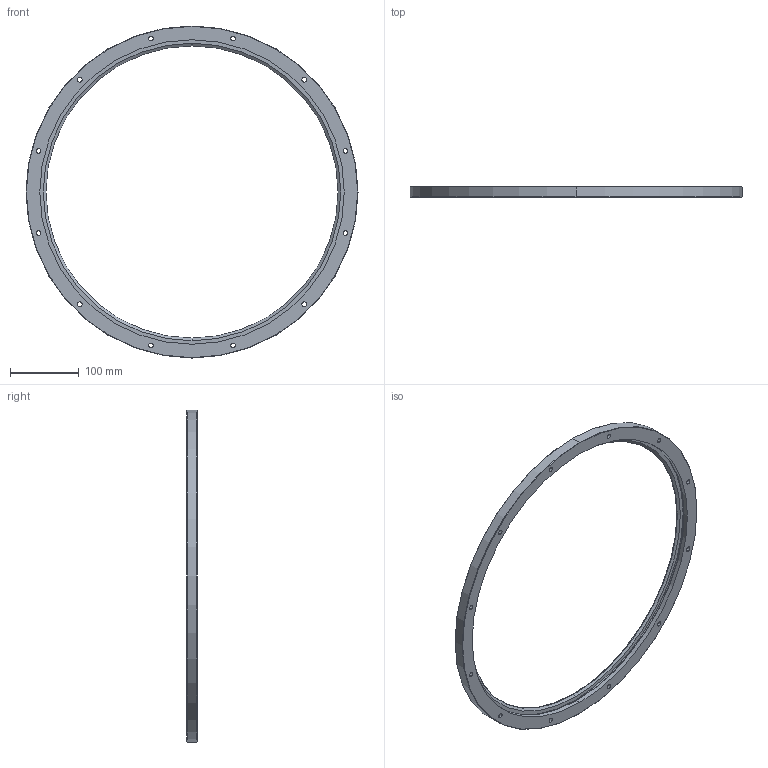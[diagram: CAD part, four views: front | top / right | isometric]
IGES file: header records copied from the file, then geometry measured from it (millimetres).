
Start section: 3D InterOp IGES (v. 2020 1.0.1), Spatial Corp. Copyright (c) 1999-2017.
Global section: file name: rim_482_r360.igs; native system: Spatial Corp.; preprocessor: 3D InterOp ACIS/IGES; author: TraceParts; organization: TraceParts S.A.; date: 20210524.182649; units: millimetre
Bounding box: 482.5 x 15.5 x 482.5 mm (x, y, z)
Surface area: 127013.5 mm2 (no closed solid volume)
Topology: 0 solids, 0 shells, 82 faces, 376 edges, 376 vertices
Faces by surface type: revolution 66, extrusion 16
